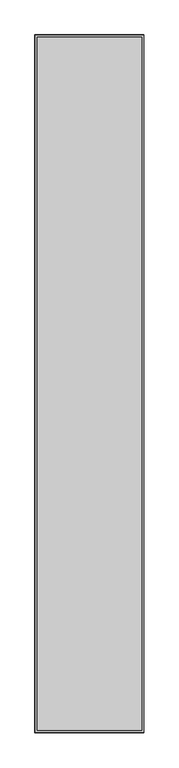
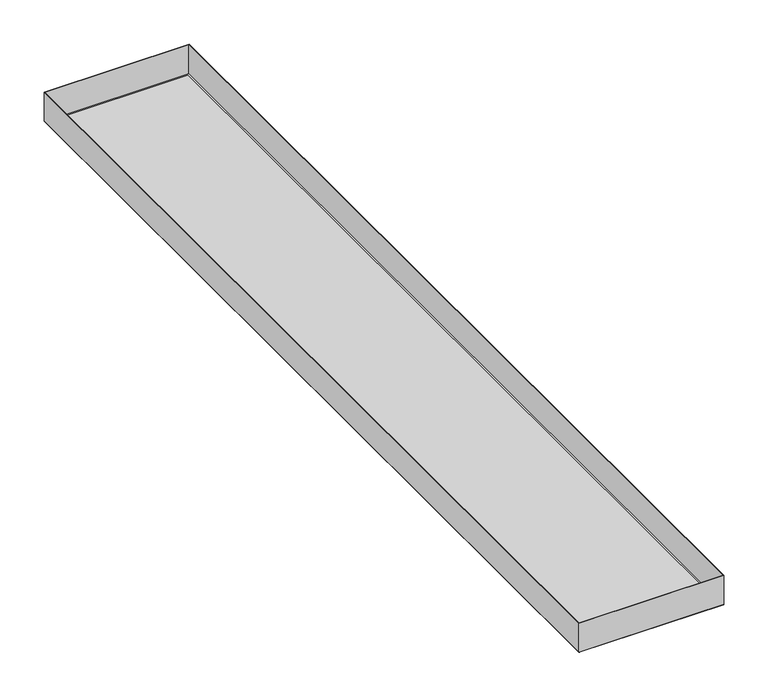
"""IFC4 building model written with IfcOpenShell, lengths in millimetres: proxy geometry, durlum_S7_panel : durlum_S7_panel_wall_length_cut."""

from ifc_helpers import new_model, si_unit, frame, origin, origin_with_axes, place, context, project, spatial, polyline, outline, extrude, source, transform, mapped, element, save


def generic_models_b2b1e57a(model_context):
    return source(origin(), model_context, "Body", "SweptSolid", [
        extrude(outline(polyline([(94.0, 601.75), (94.0, -601.75), (-94.0, -601.75), (-94.0, 601.75), (94.0, 601.75)]), holes=[polyline([(93.4, 601.15), (-93.4, 601.15), (-93.4, -601.15), (93.4, -601.15), (93.4, 601.15)])]), frame((0.0, 0.0, 0.6), z_axis=(0.0, 0.0, 1.0), x_axis=(1.0, 0.0, 0.0)), (0.0, 0.0, 1.0), 39.4),
        extrude(outline(polyline([(90.0, 597.75), (90.0, -597.75), (-90.0, -597.75), (-90.0, 597.75), (90.0, 597.75)])), frame((0.0, 0.0, 0.6), z_axis=(0.0, 0.0, 1.0), x_axis=(1.0, 0.0, 0.0)), (0.0, 0.0, 1.0), 0.6),
        extrude(outline(polyline([(94.0, 601.75), (94.0, -601.75), (-94.0, -601.75), (-94.0, 601.75), (94.0, 601.75)]), holes=[polyline([(90.0, 597.75), (-90.0, 597.75), (-90.0, -597.75), (90.0, -597.75), (90.0, 597.75)])]), origin_with_axes(), (0.0, 0.0, 1.0), 0.6),
        extrude(outline(polyline([(90.0, 597.75), (90.0, -597.75), (-90.0, -597.75), (-90.0, 597.75), (90.0, 597.75)])), origin_with_axes(), (0.0, 0.0, 1.0), 0.6),
    ])


if __name__ == "__main__":
    model = new_model("IFC4")
    model_context = context("Model", 3, world=origin())
    ifc_project = project(units=[si_unit("LENGTHUNIT", "METRE", prefix="MILLI")], contexts=[model_context])
    site = spatial("IfcSite", under=ifc_project)
    building = spatial("IfcBuilding", under=site)
    placement = place(None, origin())
    generic_models_shape = generic_models_b2b1e57a(model_context)
    element("IfcBuildingElementProxy", 1, Name="durlum_S7_panel : durlum_S7_panel_wall_length_cut", ObjectType="durlum_S7_panel : durlum_S7_panel_wall_length_cut", at=placement, inside=building, context=model_context, shape_type="MappedRepresentation", body=[
        mapped(generic_models_shape, transform((0.0, 0.0, 0.0), x_axis=(1.0, 0.0, 0.0), y_axis=(0.0, 1.0, 0.0), z_axis=(0.0, 0.0, 1.0))),
    ])
    save(model, "model.ifc")
